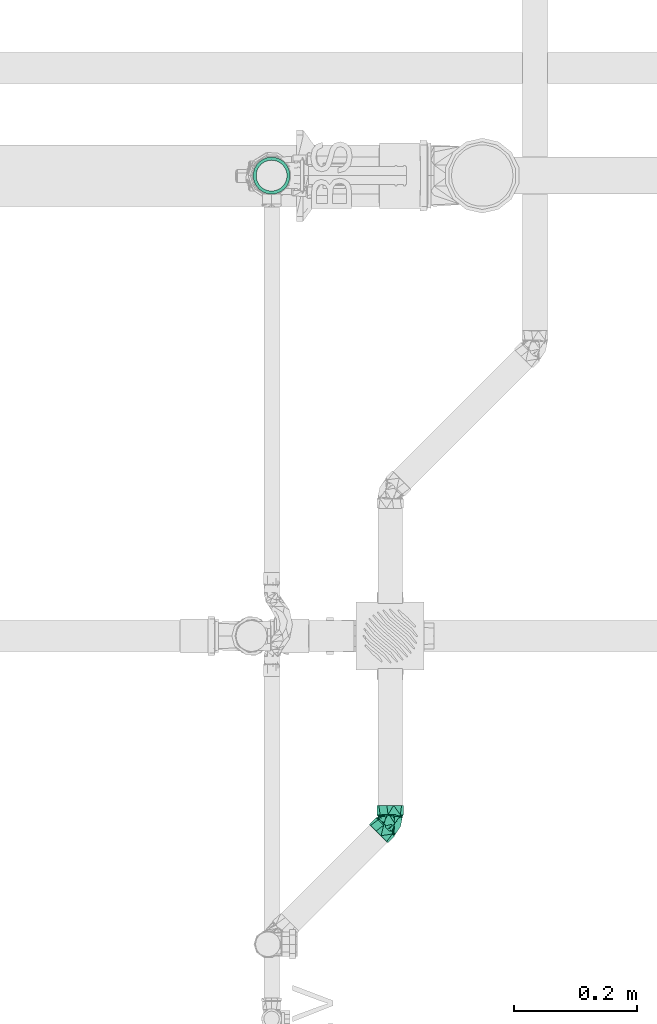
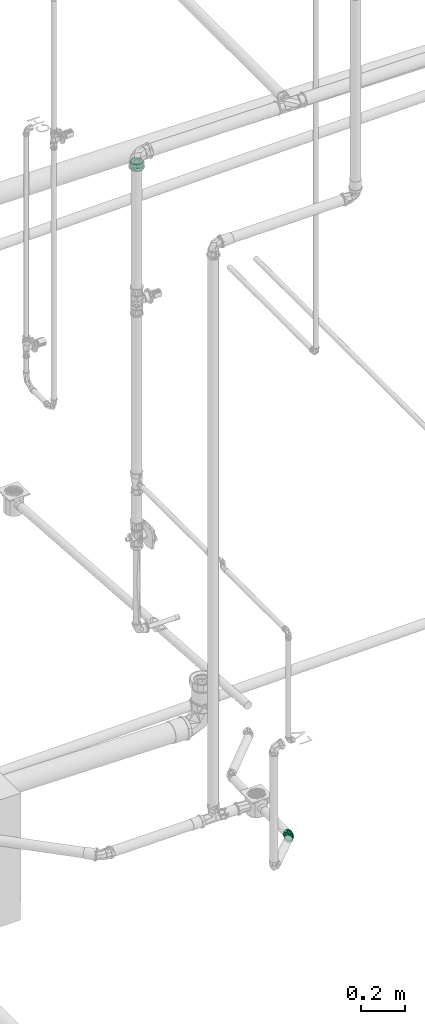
# One storey, part 354 of 589: 2 flow fittings.
"""IFC2X3 building model written with IfcOpenShell, lengths in millimetres."""

from ifc_helpers import new_model, entity, si_unit, converted_unit, derived_unit, direction, frame, frame_2d, origin, place, context, subcontext, project, spatial, hollow_circle, extrude, faceted_brep, source, transform, mapped, material, type_object, type_shapes, element, save


model = new_model("IFC2X3")

# Units and contexts
model_context = context("Model", 3, precision=0.01, world=origin(), true_north=direction((6.123031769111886e-17, 1.0)))
body_context = subcontext(model_context, "Body", "Model", "MODEL_VIEW")
ifc_project = project(units=[si_unit("LENGTHUNIT", "METRE", prefix="MILLI"), si_unit("AREAUNIT", "SQUARE_METRE"), si_unit("VOLUMEUNIT", "CUBIC_METRE"), converted_unit("PLANEANGLEUNIT", "DEGREE", entity("IfcRatioMeasure", 0.017453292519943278), si_unit("PLANEANGLEUNIT", "RADIAN"), dimensions=[0, 0, 0, 0, 0, 0, 0]), si_unit("MASSUNIT", "GRAM", prefix="KILO"), derived_unit("MASSDENSITYUNIT", [(si_unit("MASSUNIT", "GRAM", prefix="KILO"), 1), (si_unit("LENGTHUNIT", "METRE"), -3)]), derived_unit("IONCONCENTRATIONUNIT", [(si_unit("MASSUNIT", "GRAM", prefix="KILO"), 1), (si_unit("LENGTHUNIT", "METRE"), -3)]), derived_unit("MOMENTOFINERTIAUNIT", [(si_unit("LENGTHUNIT", "METRE"), 4)]), si_unit("TIMEUNIT", "SECOND"), si_unit("FREQUENCYUNIT", "HERTZ"), si_unit("THERMODYNAMICTEMPERATUREUNIT", "DEGREE_CELSIUS"), derived_unit("THERMALTRANSMITTANCEUNIT", [(si_unit("MASSUNIT", "GRAM", prefix="KILO"), 1), (si_unit("THERMODYNAMICTEMPERATUREUNIT", "KELVIN"), -1), (si_unit("TIMEUNIT", "SECOND"), -3)]), derived_unit("THERMALCONDUCTANCEUNIT", [(si_unit("MASSUNIT", "GRAM", prefix="KILO"), 1), (si_unit("THERMODYNAMICTEMPERATUREUNIT", "KELVIN"), -1), (si_unit("TIMEUNIT", "SECOND"), -3), (si_unit("LENGTHUNIT", "METRE"), 1)]), derived_unit("VOLUMETRICFLOWRATEUNIT", [(si_unit("LENGTHUNIT", "METRE"), 3), (si_unit("TIMEUNIT", "SECOND"), -1)]), derived_unit("MASSFLOWRATEUNIT", [(si_unit("MASSUNIT", "GRAM", prefix="KILO"), 1), (si_unit("TIMEUNIT", "SECOND"), -1)]), derived_unit("ROTATIONALFREQUENCYUNIT", [(si_unit("TIMEUNIT", "SECOND"), -1)]), si_unit("ELECTRICCURRENTUNIT", "AMPERE"), si_unit("ELECTRICVOLTAGEUNIT", "VOLT"), si_unit("POWERUNIT", "WATT"), si_unit("FORCEUNIT", "NEWTON", prefix="KILO"), si_unit("ILLUMINANCEUNIT", "LUX"), si_unit("LUMINOUSFLUXUNIT", "LUMEN"), si_unit("LUMINOUSINTENSITYUNIT", "CANDELA"), derived_unit("USERDEFINED", [(si_unit("MASSUNIT", "GRAM", prefix="KILO"), -1), (si_unit("LENGTHUNIT", "METRE"), -2), (si_unit("TIMEUNIT", "SECOND"), 3), (si_unit("LUMINOUSFLUXUNIT", "LUMEN"), 1)]), derived_unit("USERDEFINED", [(si_unit("MASSUNIT", "GRAM", prefix="KILO"), 1), (si_unit("TIMEUNIT", "SECOND"), -3), (si_unit("LENGTHUNIT", "METRE"), 3), (si_unit("ELECTRICCURRENTUNIT", "AMPERE"), -2)]), derived_unit("SOUNDPOWERUNIT", [(si_unit("MASSUNIT", "GRAM", prefix="KILO"), 1), (si_unit("TIMEUNIT", "SECOND"), -3), (si_unit("LENGTHUNIT", "METRE"), 2)]), derived_unit("SOUNDPRESSUREUNIT", [(si_unit("MASSUNIT", "GRAM", prefix="KILO"), 1), (si_unit("LENGTHUNIT", "METRE"), -1), (si_unit("TIMEUNIT", "SECOND"), -2)]), derived_unit("LINEARVELOCITYUNIT", [(si_unit("LENGTHUNIT", "METRE"), 1), (si_unit("TIMEUNIT", "SECOND"), -1)]), si_unit("PRESSUREUNIT", "PASCAL"), derived_unit("USERDEFINED", [(si_unit("MASSUNIT", "GRAM", prefix="KILO"), 1), (si_unit("LENGTHUNIT", "METRE"), -2), (si_unit("TIMEUNIT", "SECOND"), -2)]), derived_unit("LINEARFORCEUNIT", [(si_unit("MASSUNIT", "GRAM", prefix="KILO"), 1), (si_unit("TIMEUNIT", "SECOND"), -2)]), derived_unit("PLANARFORCEUNIT", [(si_unit("MASSUNIT", "GRAM", prefix="KILO"), 1), (si_unit("LENGTHUNIT", "METRE"), -1), (si_unit("TIMEUNIT", "SECOND"), -2)]), derived_unit("SPECIFICHEATCAPACITYUNIT", [(si_unit("THERMODYNAMICTEMPERATUREUNIT", "KELVIN"), -1), (si_unit("LENGTHUNIT", "METRE"), 2), (si_unit("TIMEUNIT", "SECOND"), -2)]), derived_unit("HEATINGVALUEUNIT", [(si_unit("LENGTHUNIT", "METRE"), 2), (si_unit("TIMEUNIT", "SECOND"), -2)]), derived_unit("VAPORPERMEABILITYUNIT", [(si_unit("LENGTHUNIT", "METRE"), -1), (si_unit("TIMEUNIT", "SECOND"), 1)]), derived_unit("DYNAMICVISCOSITYUNIT", [(si_unit("MASSUNIT", "GRAM", prefix="KILO"), 1), (si_unit("TIMEUNIT", "SECOND"), -1), (si_unit("LENGTHUNIT", "METRE"), -1)]), derived_unit("THERMALEXPANSIONCOEFFICIENTUNIT", [(si_unit("THERMODYNAMICTEMPERATUREUNIT", "KELVIN"), -1)]), derived_unit("MODULUSOFELASTICITYUNIT", [(si_unit("MASSUNIT", "GRAM", prefix="KILO"), 1), (si_unit("LENGTHUNIT", "METRE"), -1), (si_unit("TIMEUNIT", "SECOND"), -2)]), derived_unit("ISOTHERMALMOISTURECAPACITYUNIT", [(si_unit("LENGTHUNIT", "METRE"), 3), (si_unit("MASSUNIT", "GRAM", prefix="KILO"), -1)]), derived_unit("MOISTUREDIFFUSIVITYUNIT", [(si_unit("TIMEUNIT", "SECOND"), -1), (si_unit("LENGTHUNIT", "METRE"), 2)])], contexts=[model_context])

# Site, building, storey
site_placement = place(None, origin())
site = spatial("IfcSite", under=ifc_project, at=site_placement, Name="Default", CompositionType="ELEMENT")
building_placement = place(site_placement, origin())
building = spatial("IfcBuilding", under=site, at=building_placement, CompositionType="ELEMENT")
storey_placement = place(building_placement, frame((0.0, 0.0, 100.0)))
storey = spatial("IfcBuildingStorey", under=building, at=storey_placement, Name="TÉRREO", CompositionType="ELEMENT", Elevation=100.0)

# Flow fittings
ifc_material_1 = material(Name="PVC Marrom")
pipe_fitting_type_1 = type_object("IfcPipeFittingType", Name="PVC Marrom Soldável_Bucha de Reducão Curta_Rodrigo MEP:Bucha de Redução Curta", PredefinedType="NOTDEFINED", material=ifc_material_1)
shared_shape_1 = source(origin(), body_context, "Body", "SweptSolid", [
    extrude(hollow_circle(Radius=30.0, WallThickness=5.0, at=frame_2d((0.0, -4.8466337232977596e-14), x_axis=(1.0, 0.0))), frame((0.0, 0.0, 0.0), z_axis=(1.0, 0.0, 0.0), x_axis=(0.0, -1.0, 0.0)), (0.0, 0.0, 1.0), 36.0),
])
type_shapes(pipe_fitting_type_1, [shared_shape_1])
flow_fitting_1_placement = place(storey_placement, frame((-7562.714972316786, -528.9241377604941, 2965.4), z_axis=(1.0, 0.0, 0.0), x_axis=(0.0, 0.0, -1.0)))
element("IfcFlowFitting", 1, at=flow_fitting_1_placement, inside=storey, type_object=pipe_fitting_type_1, material=ifc_material_1, Name="PVC Marrom Soldável_Bucha de Reducão Curta_Rodrigo MEP:Bucha de Redução Curta", ObjectType="PVC Marrom Soldável_Bucha de Reducão Curta_Rodrigo MEP:Bucha de Redução Curta", context=body_context, shape_type="MappedRepresentation", body=[
    mapped(shared_shape_1, transform((0.0, 0.0, 0.0), scale=1.0)),
])
ifc_material_2 = material(Name="PVC Série Normal")
pipe_fitting_type_2 = type_object("IfcPipeFittingType", Name="PVC Esgoto_Joelho 45_90_Rodrigo MEP:a. Série Normal", PredefinedType="NOTDEFINED", material=ifc_material_2)
shared_shape_2 = source(origin(), body_context, "Body", "Brep", [
    faceted_brep([(20.291797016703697, -7.993282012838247, 0.0), (18.397234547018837, -6.098470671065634, 10.0), (9.810603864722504, 2.489287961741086, 19.318516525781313), (2.4905765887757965, 9.810276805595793, 19.318516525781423), (-6.0960540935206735, 18.39803543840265, 10.0), (-7.990616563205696, 20.29284678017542, 0.0), (-6.0960540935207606, 18.398035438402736, -10.0), (2.49057658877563, 9.81027680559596, -19.31851652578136), (9.810603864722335, 2.4892879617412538, -19.318516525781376), (18.397234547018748, -6.098470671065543, -10.0), (-6.010587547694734, 22.272615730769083, 0.0), (-4.116025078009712, 20.377804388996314, 10.0), (4.470605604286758, 11.790045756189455, 19.318516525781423), (11.790632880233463, 4.46905691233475, 19.318516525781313), (20.3772635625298, -4.118701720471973, 10.0), (22.271826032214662, -6.013513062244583, 0.0), (20.37726356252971, -4.11870172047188, -10.0), (11.790632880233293, 4.469056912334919, -19.318516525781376), (4.4706056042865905, 11.790045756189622, -19.31851652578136), (-4.116025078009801, 20.3778043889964, -10.0)], [[[0, 1, 2, 3, 4, 5, 6, 7, 8, 9]], [[10, 11, 12, 13, 14, 15, 16, 17, 18, 19]], [[0, 15, 14, 1]], [[1, 14, 13, 2]], [[13, 12, 3, 2]], [[3, 12, 11, 4]], [[4, 11, 10, 5]], [[5, 10, 19, 6]], [[6, 19, 18, 7]], [[18, 17, 8, 7]], [[8, 17, 16, 9]], [[9, 16, 15, 0]]]),
    faceted_brep([(-11.497676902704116, -17.320508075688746, -10.0), (-11.497676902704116, -20.0, 0.0), (-11.497676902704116, -17.320508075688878, 10.0), (-11.497676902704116, -5.176380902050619, 19.318516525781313), (-11.497676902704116, 5.1763809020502, 19.318516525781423), (-11.497676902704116, 17.320508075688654, 10.0), (-11.497676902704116, 20.0, 0.0), (-11.497676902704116, 17.320508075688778, -10.0), (-11.497676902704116, 5.17638090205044, -19.31851652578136), (-11.497676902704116, -5.176380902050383, -19.318516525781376), (-8.697676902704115, 5.17638090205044, -19.31851652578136), (-8.697676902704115, 17.320508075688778, -10.0), (-8.697676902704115, 20.0, 0.0), (-8.697676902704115, 17.320508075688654, 10.0), (-8.697676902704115, 5.1763809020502, 19.318516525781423), (-8.697676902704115, -5.176380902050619, 19.318516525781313), (-8.697676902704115, -17.320508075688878, 10.0), (-8.697676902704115, -20.0, 0.0), (-8.697676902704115, -17.320508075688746, -10.0), (-8.697676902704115, -5.176380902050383, -19.318516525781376)], [[[0, 1, 2, 3, 4, 5, 6, 7, 8, 9]], [[10, 11, 12, 13, 14, 15, 16, 17, 18, 19]], [[1, 17, 16, 2]], [[2, 16, 15, 3]], [[15, 14, 4, 3]], [[4, 14, 13, 5]], [[5, 13, 12, 6]], [[6, 12, 11, 7]], [[7, 11, 10, 8]], [[10, 19, 9, 8]], [[9, 19, 18, 0]], [[0, 18, 17, 1]]]),
    faceted_brep([(-26.49767690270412, -5.512845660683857, -20.574220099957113), (-26.49767690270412, -5.176380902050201, -19.318516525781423), (-26.49767690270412, 5.176380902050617, -19.318516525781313), (-26.49767690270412, -18.44634110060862, -10.649999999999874), (-26.49767690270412, 5.512845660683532, -20.574220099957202), (-26.49767690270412, -17.320508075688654, -10.0), (-26.49767690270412, -20.0, 0.0), (-26.49767690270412, -21.3, 0.0), (-26.49767690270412, -17.32050807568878, 10.0), (-26.49767690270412, -18.446341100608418, 10.65000000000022), (-26.49767690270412, -5.176380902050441, 19.31851652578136), (-26.49767690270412, -5.512845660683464, 20.574220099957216), (-26.49767690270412, 5.176380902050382, 19.318516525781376), (-26.49767690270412, 5.512845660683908, 20.5742200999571), (-26.49767690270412, 17.320508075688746, 10.0), (-26.49767690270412, 18.446341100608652, 10.649999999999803), (-26.49767690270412, 21.3, 0.0), (-26.49767690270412, 20.0, 0.0), (-26.49767690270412, 18.44634110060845, -10.650000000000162), (-26.49767690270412, 17.320508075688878, -10.0), (-11.497676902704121, 17.320508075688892, -10.0), (-11.497676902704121, 20.0, 0.0), (-11.497676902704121, 5.17638090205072, -19.318516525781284), (-11.497676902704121, -5.176380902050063, -19.31851652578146), (-11.497676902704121, -17.320508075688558, -10.0), (-11.497676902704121, -20.0, 0.0), (-11.497676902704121, -17.320508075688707, 10.0), (-11.497676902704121, -5.176380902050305, 19.318516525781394), (-11.497676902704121, 5.176380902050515, 19.318516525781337), (-11.497676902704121, 17.320508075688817, 10.0), (-11.497676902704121, 21.3, 0.0), (-11.497676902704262, 16.315983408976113, 13.692285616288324), (-11.497676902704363, 3.696367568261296, 20.976817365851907), (-11.497676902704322, -16.31941754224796, 13.688192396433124), (-11.497676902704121, -21.3, 0.0), (-11.497676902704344, -6.311524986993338, 17.3325048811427), (-11.49767690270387, -16.319417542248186, -13.688192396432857), (-11.497676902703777, -3.7016293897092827, -20.975889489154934), (-11.497676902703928, 16.315983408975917, -13.692285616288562), (-11.497676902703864, 6.307177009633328, -17.334087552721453), (-9.497676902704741, -3.470767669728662, -19.69654212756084), (-9.49767690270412, 20.0, 0.0), (-9.497676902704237, 18.830849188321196, -3.2131907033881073), (-9.497676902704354, 17.66169837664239, -6.426381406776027), (-9.497676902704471, 16.4925475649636, -9.639572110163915), (-9.497676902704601, 15.323396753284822, -12.852762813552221), (-9.497676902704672, 5.9263145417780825, -16.27465247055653), (-9.497676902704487, -15.320172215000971, -12.856606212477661), (-9.49767690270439, -16.490129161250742, -9.642454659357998), (-9.497676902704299, -17.660086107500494, -6.428303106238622), (-9.49767690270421, -18.830043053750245, -3.214151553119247), (-9.497676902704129, -20.0, 0.0), (-9.497676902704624, 10.624855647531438, -14.563707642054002), (-9.497676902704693, 1.2277734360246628, -17.98559729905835), (-9.497676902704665, -6.433118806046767, -17.98655814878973), (-9.497676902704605, -9.395469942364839, -16.276574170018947), (-9.49767690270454, -12.357821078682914, -14.566590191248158), (-9.497676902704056, -18.830043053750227, 3.2141515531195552), (-9.497676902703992, -17.660086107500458, 6.428303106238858), (-9.497676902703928, -16.490129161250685, 9.64245465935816), (-9.497676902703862, -15.3201722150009, 12.856606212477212), (-9.497676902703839, -12.970687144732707, 13.711489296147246), (-9.497676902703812, -10.621202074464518, 14.566372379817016), (-9.497676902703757, -5.922231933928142, 16.27613854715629), (-9.497676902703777, 15.323396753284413, 12.852762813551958), (-9.497676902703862, 16.49254756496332, 9.63957211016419), (-9.49767690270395, 17.661698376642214, 6.426381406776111), (-9.497676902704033, 18.830849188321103, 3.213190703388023), (-9.497676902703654, 3.47570834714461, 19.695670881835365), (-9.49767690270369, 6.43763044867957, 17.984943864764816), (-9.497676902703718, 9.399552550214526, 16.274216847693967), (-9.497676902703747, 12.361474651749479, 14.563489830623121), (-9.497676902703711, -1.2232617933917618, 17.985904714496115), (-8.697676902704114, 17.057389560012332, 9.848048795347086), (-8.697676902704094, 6.840479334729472, 18.793824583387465), (-8.697676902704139, -9.848049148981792, 17.057385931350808), (-8.697676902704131, -3.420183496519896, 19.396932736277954), (-8.697676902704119, 0.0, 20.0), (-8.697676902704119, 19.396930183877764, 3.4201905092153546), (-8.697676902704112, 15.320918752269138, 12.855716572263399), (-8.697676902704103, 11.080699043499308, 15.82477057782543), (-8.697676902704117, 18.793860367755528, 6.840381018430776), (-8.697676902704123, -18.793848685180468, 6.840413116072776), (-8.697676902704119, 20.0, 0.0), (-8.697676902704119, -20.0, 0.0), (-8.697676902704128, -15.824789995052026, 11.080659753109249), (-8.697676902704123, -19.156924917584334, 4.781308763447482), (-8.697676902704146, -6.84036699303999, 18.793865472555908), (-8.69767690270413, -14.34026064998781, 13.200783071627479), (-8.697676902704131, -12.855731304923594, 15.320906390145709), (-8.697676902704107, 3.420239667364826, 19.396912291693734), (-8.697676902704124, -17.057361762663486, -9.848091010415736), (-8.697676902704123, -18.793848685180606, -6.840413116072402), (-8.697676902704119, 19.39693018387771, -3.4201905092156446), (-8.697676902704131, -3.420183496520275, -19.396932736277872), (-8.697676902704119, 0.0, -20.0), (-8.69767690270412, -19.396924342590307, -3.4202065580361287), (-8.697676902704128, -15.320874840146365, -12.85576890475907), (-8.697676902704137, -11.080620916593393, -15.824817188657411), (-8.697676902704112, 15.824828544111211, -11.080616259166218), (-8.697676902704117, 18.79386036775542, -6.84038101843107), (-8.697676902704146, -6.840366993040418, -18.79386547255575), (-8.697676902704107, 12.855796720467, -15.320851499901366), (-8.697676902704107, 3.420239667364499, -19.396912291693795), (-8.697676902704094, 6.840479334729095, -18.7938245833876), (-8.697676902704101, 9.848138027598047, -17.05733804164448), (18.39723454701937, -6.098470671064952, -10.0), (9.810603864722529, 2.489287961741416, -19.318516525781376), (2.490576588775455, 9.81027680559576, -19.31851652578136), (-6.0960540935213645, 18.39803543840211, -10.0), (-7.990616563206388, 20.292846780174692, 0.0), (-6.096054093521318, 18.39803543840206, 10.0), (2.4905765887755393, 9.810276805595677, 19.31851652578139), (9.810603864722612, 2.489287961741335, 19.318516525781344), (18.39723454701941, -6.098470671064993, 10.0), (20.29179701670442, -7.993282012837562, 0.0), (-2.9119619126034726, -18.849248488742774, 0.0), (15.386759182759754, -11.270374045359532, 0.0), (2.8666055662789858, -7.210896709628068, 17.605576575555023), (6.991099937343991, -16.87957604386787, 0.0), (-8.315023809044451, 20.076107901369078, 0.0), (2.8666055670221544, -7.2108967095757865, -17.605576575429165)], [[[0, 1, 2]], [[1, 0, 3]], [[2, 4, 0]], [[3, 5, 1]], [[3, 6, 5]], [[6, 3, 7]], [[8, 6, 7]], [[8, 7, 9]], [[9, 10, 8]], [[9, 11, 10]], [[10, 11, 12]], [[13, 12, 11]], [[13, 14, 12]], [[14, 13, 15]], [[16, 14, 15]], [[17, 14, 16]], [[18, 17, 16]], [[18, 19, 17]], [[19, 18, 4]], [[4, 2, 19]], [[20, 21, 17, 19]], [[22, 20, 19, 2]], [[2, 1, 23, 22]], [[24, 23, 1, 5]], [[25, 24, 5, 6]], [[26, 25, 6, 8]], [[27, 26, 8, 10]], [[10, 12, 28, 27]], [[29, 28, 12, 14]], [[21, 29, 14, 17]], [[16, 15, 30]], [[15, 31, 30]], [[31, 15, 13]], [[31, 13, 32]], [[33, 11, 9]], [[34, 9, 7]], [[11, 33, 35, 32]], [[33, 9, 34]], [[11, 32, 13]], [[7, 3, 34]], [[3, 36, 34]], [[36, 3, 0]], [[36, 0, 37]], [[38, 4, 18]], [[30, 18, 16]], [[4, 38, 39, 37]], [[38, 18, 30]], [[4, 37, 0]], [[28, 29, 21, 20, 22, 23, 24, 25, 26, 27]], [[39, 40, 37]], [[30, 41, 42, 43, 44, 45]], [[30, 45, 38]], [[38, 46, 39]], [[36, 47, 48, 49, 50, 51]], [[38, 45, 52, 46]], [[36, 37, 47]], [[34, 36, 51]], [[39, 46, 53, 40]], [[37, 40, 54, 55, 56, 47]], [[33, 51, 57, 58, 59, 60]], [[33, 34, 51]], [[60, 35, 33]], [[35, 60, 61, 62, 63]], [[63, 32, 35]], [[30, 64, 65, 66, 67, 41]], [[31, 68, 69, 70, 71, 64]], [[31, 64, 30]], [[32, 63, 72, 68]], [[68, 31, 32]], [[64, 73, 65]], [[74, 70, 69, 68]], [[62, 75, 63]], [[76, 77, 72]], [[78, 67, 66]], [[79, 71, 80]], [[65, 81, 66]], [[64, 79, 73]], [[82, 59, 58]], [[83, 41, 67]], [[84, 57, 51]], [[60, 59, 85]], [[83, 67, 78]], [[86, 82, 58]], [[81, 65, 73]], [[63, 87, 76]], [[63, 76, 72]], [[63, 75, 87]], [[82, 85, 59]], [[68, 72, 77]], [[66, 81, 78]], [[61, 88, 89]], [[89, 62, 61]], [[68, 77, 90, 74]], [[84, 86, 57]], [[86, 58, 57]], [[89, 75, 62]], [[61, 60, 88]], [[60, 85, 88]], [[74, 80, 70]], [[71, 79, 64]], [[71, 70, 80]], [[49, 91, 92]], [[93, 43, 42]], [[54, 40, 94]], [[40, 53, 95]], [[51, 96, 84]], [[97, 56, 98]], [[48, 97, 91]], [[91, 49, 48]], [[99, 44, 100]], [[101, 55, 54]], [[96, 51, 50]], [[83, 42, 41]], [[45, 99, 102]], [[49, 92, 50]], [[42, 83, 93]], [[48, 47, 97]], [[53, 103, 95]], [[104, 103, 46]], [[52, 105, 46]], [[44, 99, 45]], [[46, 103, 53]], [[50, 92, 96]], [[105, 52, 102]], [[44, 43, 100]], [[40, 95, 94]], [[100, 43, 93]], [[102, 52, 45]], [[105, 104, 46]], [[101, 98, 55]], [[54, 94, 101]], [[56, 97, 47]], [[56, 55, 98]], [[106, 107, 108, 109, 110, 111, 112, 113, 114, 115]], [[116, 89, 88, 85, 82]], [[117, 118, 119]], [[118, 89, 119]], [[118, 77, 76, 87]], [[116, 82, 86, 84]], [[118, 74, 90, 77]], [[111, 81, 73, 79]], [[112, 79, 80, 74]], [[118, 87, 75, 89]], [[89, 116, 119]], [[74, 118, 112]], [[118, 114, 113]], [[118, 117, 114]], [[120, 83, 78, 81]], [[81, 110, 120]], [[110, 81, 111]], [[117, 115, 114]], [[112, 111, 79]], [[112, 118, 113]], [[104, 108, 121]], [[116, 92, 91, 97]], [[109, 102, 99, 100]], [[106, 121, 107]], [[97, 121, 119]], [[108, 104, 105, 102]], [[116, 84, 96, 92]], [[97, 119, 116]], [[121, 97, 98, 101]], [[121, 95, 103, 104]], [[110, 100, 120]], [[109, 100, 110]], [[108, 102, 109]], [[121, 101, 94, 95]], [[108, 107, 121]], [[119, 121, 117]], [[106, 117, 121]], [[106, 115, 117]], [[120, 100, 93, 83]]]),
    faceted_brep([(-4.116025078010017, 20.37780438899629, -10.0), (-6.010587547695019, 22.272615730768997, 0.0), (-4.116025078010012, 20.37780438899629, 10.0), (4.470605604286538, 11.790045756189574, 19.318516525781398), (11.790632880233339, 4.469056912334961, 19.318516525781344), (20.37726356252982, -4.11870172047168, 10.0), (22.27182603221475, -6.013513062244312, 0.0), (20.377263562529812, -4.118701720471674, -10.0), (11.79063288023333, 4.469056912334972, -19.318516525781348), (4.470605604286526, 11.790045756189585, -19.318516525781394), (23.191004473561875, -6.932812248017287, 0.0), (20.85751959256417, -7.4276337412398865, 0.0), (20.03085942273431, -6.600864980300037, -3.213190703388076), (19.204199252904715, -5.774096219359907, -6.426381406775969), (18.377539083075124, -4.947327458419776, -9.639572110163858), (17.55087891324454, -4.120558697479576, -12.85276281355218), (3.6679902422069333, 12.592766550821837, -17.332504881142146), (10.744174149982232, 5.51565310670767, -20.976817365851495), (4.262270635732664, 9.169795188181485, -19.696542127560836), (19.667004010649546, -3.408348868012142, -13.69228561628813), (-4.115973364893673, 17.54913976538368, -12.856606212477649), (-3.408193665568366, 19.669879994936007, -13.688192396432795), (2.167709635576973, 11.264631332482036, -17.986558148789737), (0.07314863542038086, 13.359467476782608, -16.27657417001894), (-2.021412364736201, 15.45430362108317, -14.566590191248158), (10.906574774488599, 2.5246182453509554, -16.274652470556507), (-4.943203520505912, 18.37647858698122, -9.642454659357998), (-5.7704336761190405, 19.20381740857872, -6.428303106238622), (-6.597663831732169, 20.031156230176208, -3.2141515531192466), (-7.424893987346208, 20.858495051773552, 0.0), (-6.92976598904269, 23.191914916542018, 0.0), (14.22872684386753, -0.7979702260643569, -14.563707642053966), (7.58442270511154, 5.8472067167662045, -17.98559729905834), (-3.408193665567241, 19.669879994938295, 13.688192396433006), (-6.597663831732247, 20.031156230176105, 3.2141515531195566), (-5.770433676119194, 19.20381740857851, 6.428303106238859), (-4.943203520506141, 18.376478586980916, 9.64245465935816), (-4.115973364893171, 17.549139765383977, 12.856606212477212), (12.59017395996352, 3.6694108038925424, 17.334087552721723), (5.513343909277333, 10.747170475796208, 20.975889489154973), (9.173848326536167, 4.257572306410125, 19.695670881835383), (17.55087891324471, -4.120558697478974, 12.852762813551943), (19.66700401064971, -3.4083488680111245, 13.692285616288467), (11.268105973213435, 2.1630395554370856, 17.984943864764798), (13.362363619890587, 0.06850680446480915, 16.274216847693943), (15.456621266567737, -2.0260259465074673, 14.563489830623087), (2.5289374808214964, 10.903356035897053, 16.276138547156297), (18.377539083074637, -4.94732745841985, 9.639572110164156), (19.20419925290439, -5.774096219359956, 6.426381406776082), (20.030859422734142, -6.600864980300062, 3.213190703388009), (-2.4547456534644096, 15.887693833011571, 13.711489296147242), (-0.793517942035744, 14.22624790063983, 14.566372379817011), (5.851392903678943, 7.580464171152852, 17.985904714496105), (14.840003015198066, 22.63388298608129, -20.574220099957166), (15.077903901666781, 22.395950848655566, -19.318516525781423), (22.39793117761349, 15.074962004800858, -19.318516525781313), (5.69524133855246, 31.779845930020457, -10.649999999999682), (22.635832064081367, 14.837029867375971, -20.574220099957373), (6.491273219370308, 30.983709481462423, -10.0), (4.596710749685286, 32.8785208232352, 0.0), (3.677532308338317, 33.797820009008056, 0.0), (6.491273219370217, 30.983709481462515, 10.0), (5.6952413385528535, 31.77984593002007, 10.650000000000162), (15.077903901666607, 22.39595084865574, 19.31851652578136), (14.840003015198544, 22.633882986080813, 20.5742200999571), (22.397931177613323, 15.074962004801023, 19.318516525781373), (22.635832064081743, 14.837029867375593, 20.57422009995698), (30.984561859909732, 6.4872033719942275, 10.0), (31.78059374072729, 5.691066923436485, 10.649999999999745), (33.798302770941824, 3.6730928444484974, 0.0), (32.87912432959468, 4.592392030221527, 0.0), (31.780593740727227, 5.691066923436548, -10.650000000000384), (30.984561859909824, 6.487203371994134, -10.0), (18.211174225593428, -5.912385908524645, 9.848091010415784), (10.98714243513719, 1.3125948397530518, 18.793865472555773), (-0.812637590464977, 13.11392489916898, 17.05733804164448), (3.7322744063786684, 8.568415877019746, 19.396912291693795), (6.15059022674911, 6.149782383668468, 20.0), (19.865386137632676, -7.5668151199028, 3.420206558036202), (16.983373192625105, -4.684423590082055, 12.8557689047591), (13.98525781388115, -1.6859143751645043, 15.824817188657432), (19.438975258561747, -7.1403482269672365, 6.84041311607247), (-7.13780306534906, 19.43992125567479, 6.840381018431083), (20.2917970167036, -7.993282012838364, 0.0), (-7.9906165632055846, 20.29284678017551, 0.0), (-5.03851841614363, 17.34036084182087, 11.080616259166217), (-7.3945144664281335, 19.696666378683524, 4.781309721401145), (1.3139585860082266, 10.987049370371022, 18.79382458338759), (-3.98887609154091, 16.29058063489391, 13.20073387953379), (-2.939233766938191, 15.240800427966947, 15.320851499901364), (8.568866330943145, 3.7311886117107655, 19.39693273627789), (-5.91001342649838, 18.21197033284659, -9.848048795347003), (-7.137803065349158, 19.439921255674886, -6.840381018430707), (19.865386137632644, -7.566815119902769, -3.420206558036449), (3.7322744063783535, 8.568415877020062, -19.396912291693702), (6.150590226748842, 6.1497823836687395, -20.0), (-7.56420981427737, 19.866384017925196, -3.4201905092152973), (-4.682223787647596, 16.984019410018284, -12.85571657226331), (-1.6841326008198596, 13.985534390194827, -15.824770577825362), (17.33967161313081, -5.040768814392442, -11.080659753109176), (19.43897525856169, -7.1403482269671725, -6.840413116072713), (1.3139585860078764, 10.987049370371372, -18.793824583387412), (15.240367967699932, -2.941189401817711, -15.32090639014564), (8.568866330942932, 3.731188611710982, -19.396932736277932), (10.987142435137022, 1.312594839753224, -18.79386547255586), (13.113755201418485, -0.814297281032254, -17.05738593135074), (-8.69767690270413, 5.176380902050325, 19.31851652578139), (-8.697676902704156, 17.320508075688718, 10.0), (-8.697676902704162, 20.0, 0.0), (-8.697676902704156, 17.320508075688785, -10.0), (-8.69767690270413, 5.176380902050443, -19.31851652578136), (-8.697676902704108, -5.176380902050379, -19.318516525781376), (-8.697676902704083, -17.320508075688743, -10.0), (-8.697676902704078, -20.0, 0.0), (-8.697676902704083, -17.32050807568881, 10.0), (-8.697676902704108, -5.176380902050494, 19.318516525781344), (6.991099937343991, -16.87957604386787, 0.0), (3.071408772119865, -7.126073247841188, 17.60557611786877), (-2.9119619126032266, -18.849248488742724, 0.0), (-8.315023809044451, 20.07610790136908, 0.0), (15.386759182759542, -11.270374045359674, 0.0), (3.0714087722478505, -7.126073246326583, -17.60557611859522)], [[[0, 1, 2, 3, 4, 5, 6, 7, 8, 9]], [[10, 11, 12, 13, 14, 15]], [[16, 17, 18]], [[19, 10, 15]], [[16, 20, 21]], [[16, 18, 22, 23, 24, 20]], [[19, 25, 17]], [[21, 20, 26, 27, 28, 29]], [[21, 29, 30]], [[19, 15, 31, 25]], [[17, 25, 32, 18]], [[33, 29, 34, 35, 36, 37]], [[38, 39, 40]], [[33, 30, 29]], [[38, 41, 42]], [[38, 40, 43, 44, 45, 41]], [[33, 46, 39]], [[10, 41, 47, 48, 49, 11]], [[42, 41, 10]], [[33, 37, 50, 51, 46]], [[39, 46, 52, 40]], [[53, 54, 55]], [[54, 53, 56]], [[55, 57, 53]], [[56, 58, 54]], [[56, 59, 58]], [[59, 56, 60]], [[61, 59, 60]], [[61, 60, 62]], [[62, 63, 61]], [[62, 64, 63]], [[63, 64, 65]], [[66, 65, 64]], [[66, 67, 65]], [[67, 66, 68]], [[69, 67, 68]], [[70, 67, 69]], [[71, 70, 69]], [[71, 72, 70]], [[72, 71, 57]], [[57, 55, 72]], [[69, 68, 10]], [[68, 42, 10]], [[42, 68, 66]], [[66, 39, 38, 42]], [[33, 64, 62]], [[30, 62, 60]], [[64, 33, 39]], [[33, 62, 30]], [[64, 39, 66]], [[60, 56, 30]], [[56, 21, 30]], [[21, 56, 53]], [[53, 17, 16, 21]], [[19, 57, 71]], [[10, 71, 69]], [[57, 19, 17]], [[19, 71, 10]], [[57, 17, 53]], [[7, 6, 70, 72]], [[8, 7, 72, 55]], [[55, 54, 9, 8]], [[0, 9, 54, 58]], [[1, 0, 58, 59]], [[2, 1, 59, 61]], [[3, 2, 61, 63]], [[63, 65, 4, 3]], [[5, 4, 65, 67]], [[6, 5, 67, 70]], [[41, 73, 47]], [[74, 44, 43, 40]], [[51, 75, 46]], [[76, 77, 52]], [[78, 49, 48]], [[79, 45, 80]], [[47, 81, 48]], [[41, 79, 73]], [[82, 36, 35]], [[83, 11, 49]], [[84, 34, 29]], [[37, 36, 85]], [[83, 49, 78]], [[86, 82, 35]], [[81, 47, 73]], [[46, 87, 76]], [[46, 76, 52]], [[46, 75, 87]], [[82, 85, 36]], [[40, 52, 77]], [[48, 81, 78]], [[50, 88, 89]], [[89, 51, 50]], [[40, 77, 90, 74]], [[84, 86, 34]], [[86, 35, 34]], [[89, 75, 51]], [[50, 37, 88]], [[37, 85, 88]], [[74, 80, 44]], [[45, 79, 41]], [[45, 44, 80]], [[27, 91, 92]], [[93, 13, 12]], [[22, 18, 94]], [[18, 32, 95]], [[29, 96, 84]], [[97, 24, 98]], [[26, 97, 91]], [[91, 27, 26]], [[99, 14, 100]], [[101, 23, 22]], [[96, 29, 28]], [[83, 12, 11]], [[15, 99, 102]], [[27, 92, 28]], [[12, 83, 93]], [[26, 20, 97]], [[32, 103, 95]], [[104, 103, 25]], [[31, 105, 25]], [[14, 99, 15]], [[25, 103, 32]], [[28, 92, 96]], [[105, 31, 102]], [[14, 13, 100]], [[18, 95, 94]], [[100, 13, 93]], [[102, 31, 15]], [[105, 104, 25]], [[101, 98, 23]], [[22, 94, 101]], [[24, 97, 20]], [[24, 23, 98]], [[106, 107, 108, 109, 110, 111, 112, 113, 114, 115]], [[116, 117, 118]], [[115, 117, 106]], [[118, 117, 114]], [[107, 106, 89]], [[82, 119, 108]], [[108, 107, 82]], [[114, 113, 118]], [[117, 74, 90, 77]], [[79, 117, 116]], [[117, 79, 80, 74]], [[79, 116, 120]], [[117, 77, 76, 87]], [[119, 82, 86, 84]], [[120, 81, 73, 79]], [[107, 89, 88, 85, 82]], [[106, 87, 75, 89]], [[114, 117, 115]], [[117, 87, 106]], [[120, 83, 78, 81]], [[121, 110, 101]], [[109, 108, 92]], [[118, 113, 112]], [[109, 97, 110]], [[121, 118, 112]], [[121, 112, 111]], [[111, 110, 121]], [[92, 108, 119]], [[109, 92, 91, 97]], [[110, 97, 98, 101]], [[121, 104, 105, 102]], [[118, 121, 116]], [[121, 101, 94, 95]], [[102, 116, 121]], [[120, 100, 93, 83]], [[116, 102, 120]], [[120, 102, 99, 100]], [[121, 95, 103, 104]], [[119, 84, 96, 92]]]),
])
type_shapes(pipe_fitting_type_2, [shared_shape_2])
flow_fitting_2_placement = place(storey_placement, frame((-7370.385541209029, -1577.3558440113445, -180.58816492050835), z_axis=(0.008283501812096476, 0.019995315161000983, 0.9997657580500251), x_axis=(0.7070360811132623, 0.7068947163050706, -0.01999600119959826)))
element("IfcFlowFitting", 2, at=flow_fitting_2_placement, inside=storey, type_object=pipe_fitting_type_2, material=ifc_material_2, Name="PVC Esgoto_Joelho 45_90_Rodrigo MEP:a. Série Normal", ObjectType="PVC Esgoto_Joelho 45_90_Rodrigo MEP:a. Série Normal", context=body_context, shape_type="MappedRepresentation", body=[
    mapped(shared_shape_2, transform((0.0, 0.0, 0.0), scale=1.0)),
])

save(model, "model.ifc")
